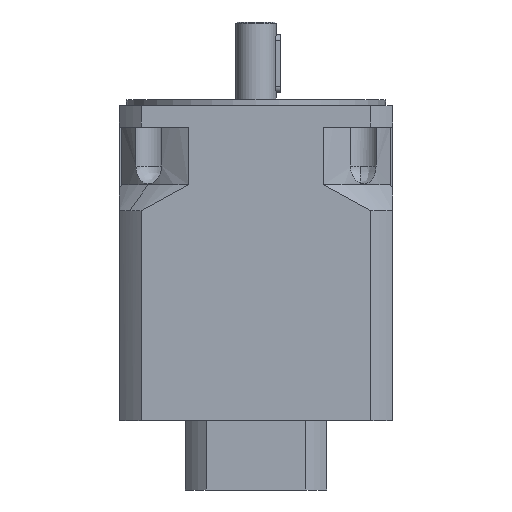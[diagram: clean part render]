
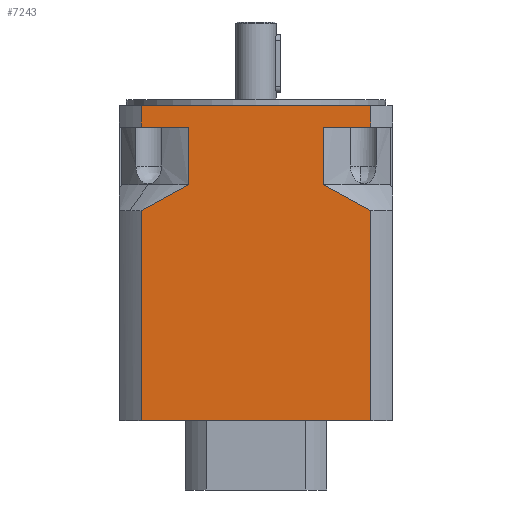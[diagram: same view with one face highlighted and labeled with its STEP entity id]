
A CAD part, front view. The second image highlights one B-rep face of the part: STEP entity #7243.
In plain terms, the highlighted planar face has unit normal (0, -1, 0).
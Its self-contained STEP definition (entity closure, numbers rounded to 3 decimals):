
#4755=CARTESIAN_POINT('',(-79.693,-95.0,267.));
#4756=VERTEX_POINT('',#4755);
#4757=CARTESIAN_POINT('',(79.693,-95.,267.));
#4758=VERTEX_POINT('',#4757);
#4759=CARTESIAN_POINT('',(-79.693,-95.0,267.));
#4760=DIRECTION('',(1.0,0.0,0.0));
#4761=VECTOR('',#4760,159.386);
#4762=LINE('',#4759,#4761);
#4763=EDGE_CURVE('',#4756,#4758,#4762,.T.);
#4915=CARTESIAN_POINT('',(79.693,-95.,252.));
#4916=VERTEX_POINT('',#4915);
#4917=CARTESIAN_POINT('',(79.693,-95.,267.));
#4918=DIRECTION('',(0.0,0.0,-1.0));
#4919=VECTOR('',#4918,15.);
#4920=LINE('',#4917,#4919);
#4921=EDGE_CURVE('',#4758,#4916,#4920,.T.);
#4947=CARTESIAN_POINT('',(-79.693,-95.0,252.));
#4948=VERTEX_POINT('',#4947);
#4949=CARTESIAN_POINT('',(-79.693,-95.0,252.));
#4950=DIRECTION('',(0.0,0.0,1.0));
#4951=VECTOR('',#4950,15.);
#4952=LINE('',#4949,#4951);
#4953=EDGE_CURVE('',#4948,#4756,#4952,.T.);
#5107=CARTESIAN_POINT('',(47.021,-95.0,252.));
#5108=VERTEX_POINT('',#5107);
#5109=CARTESIAN_POINT('',(79.693,-95.,252.));
#5110=DIRECTION('',(-1.0,0.0,0.0));
#5111=VECTOR('',#5110,32.672);
#5112=LINE('',#5109,#5111);
#5113=EDGE_CURVE('',#4916,#5108,#5112,.T.);
#5176=CARTESIAN_POINT('',(-47.021,-95.0,252.));
#5177=VERTEX_POINT('',#5176);
#5178=CARTESIAN_POINT('',(-47.021,-95.0,252.));
#5179=DIRECTION('',(-1.0,0.0,0.0));
#5180=VECTOR('',#5179,32.672);
#5181=LINE('',#5178,#5180);
#5182=EDGE_CURVE('',#5177,#4948,#5181,.T.);
#5639=CARTESIAN_POINT('',(47.021,-95.0,212.));
#5640=VERTEX_POINT('',#5639);
#5648=CARTESIAN_POINT('',(79.693,-95.0,194.));
#5649=VERTEX_POINT('',#5648);
#5650=CARTESIAN_POINT('',(79.693,-95.0,194.));
#5651=CARTESIAN_POINT('',(62.079,-95.0,205.321));
#5652=CARTESIAN_POINT('',(47.021,-95.0,212.));
#5660=(BOUNDED_CURVE()B_SPLINE_CURVE(2,(#5650,#5651,#5652),.UNSPECIFIED.,.F.,.U.)B_SPLINE_CURVE_WITH_KNOTS((3,3),(0.324,4.1),.UNSPECIFIED.)CURVE()GEOMETRIC_REPRESENTATION_ITEM()RATIONAL_B_SPLINE_CURVE((1.002,1.011,1.0))REPRESENTATION_ITEM(''));
#5661=EDGE_CURVE('',#5649,#5640,#5660,.T.);
#5821=CARTESIAN_POINT('',(47.021,-95.0,212.));
#5822=DIRECTION('',(0.0,0.0,1.0));
#5823=VECTOR('',#5822,40.0);
#5824=LINE('',#5821,#5823);
#5825=EDGE_CURVE('',#5640,#5108,#5824,.T.);
#5874=CARTESIAN_POINT('',(-47.021,-95.0,212.));
#5875=VERTEX_POINT('',#5874);
#5883=CARTESIAN_POINT('',(-47.021,-95.0,252.));
#5884=DIRECTION('',(0.0,0.0,-1.0));
#5885=VECTOR('',#5884,40.0);
#5886=LINE('',#5883,#5885);
#5887=EDGE_CURVE('',#5177,#5875,#5886,.T.);
#5922=CARTESIAN_POINT('',(-79.693,-95.,194.0));
#5923=VERTEX_POINT('',#5922);
#5931=CARTESIAN_POINT('',(-47.021,-95.,212.));
#5932=CARTESIAN_POINT('',(-62.079,-95.,205.321));
#5933=CARTESIAN_POINT('',(-79.693,-95.,194.0));
#5941=(BOUNDED_CURVE()B_SPLINE_CURVE(2,(#5931,#5932,#5933),.UNSPECIFIED.,.F.,.U.)B_SPLINE_CURVE_WITH_KNOTS((3,3),(0.0,3.776),.UNSPECIFIED.)CURVE()GEOMETRIC_REPRESENTATION_ITEM()RATIONAL_B_SPLINE_CURVE((1.0,1.011,1.002))REPRESENTATION_ITEM(''));
#5942=EDGE_CURVE('',#5875,#5923,#5941,.T.);
#6113=CARTESIAN_POINT('',(79.693,-95.0,48.));
#6114=VERTEX_POINT('',#6113);
#6115=CARTESIAN_POINT('',(-79.693,-95.,48.));
#6116=VERTEX_POINT('',#6115);
#6117=CARTESIAN_POINT('',(79.693,-95.0,48.));
#6118=DIRECTION('',(-1.0,0.0,0.0));
#6119=VECTOR('',#6118,159.386);
#6120=LINE('',#6117,#6119);
#6121=EDGE_CURVE('',#6114,#6116,#6120,.T.);
#7214=CARTESIAN_POINT('',(-79.693,-95.0,267.));
#7215=DIRECTION('',(0.0,-1.0,0.0));
#7216=DIRECTION('',(0.0,0.0,-1.0));
#7217=AXIS2_PLACEMENT_3D('',#7214,#7215,#7216);
#7218=PLANE('',#7217);
#7219=ORIENTED_EDGE('',*,*,#5887,.T.);
#7220=ORIENTED_EDGE('',*,*,#5942,.T.);
#7221=CARTESIAN_POINT('',(-79.693,-95.,194.0));
#7222=DIRECTION('',(0.0,0.0,-1.0));
#7223=VECTOR('',#7222,146.0);
#7224=LINE('',#7221,#7223);
#7225=EDGE_CURVE('',#5923,#6116,#7224,.T.);
#7226=ORIENTED_EDGE('',*,*,#7225,.T.);
#7227=ORIENTED_EDGE('',*,*,#6121,.F.);
#7228=CARTESIAN_POINT('',(79.693,-95.0,194.));
#7229=DIRECTION('',(0.0,0.0,-1.0));
#7230=VECTOR('',#7229,146.);
#7231=LINE('',#7228,#7230);
#7232=EDGE_CURVE('',#5649,#6114,#7231,.T.);
#7233=ORIENTED_EDGE('',*,*,#7232,.F.);
#7234=ORIENTED_EDGE('',*,*,#5661,.T.);
#7235=ORIENTED_EDGE('',*,*,#5825,.T.);
#7236=ORIENTED_EDGE('',*,*,#5113,.F.);
#7237=ORIENTED_EDGE('',*,*,#4921,.F.);
#7238=ORIENTED_EDGE('',*,*,#4763,.F.);
#7239=ORIENTED_EDGE('',*,*,#4953,.F.);
#7240=ORIENTED_EDGE('',*,*,#5182,.F.);
#7241=EDGE_LOOP('',(#7219,#7220,#7226,#7227,#7233,#7234,#7235,#7236,#7237,#7238,#7239,#7240));
#7242=FACE_OUTER_BOUND('',#7241,.T.);
#7243=ADVANCED_FACE('',(#7242),#7218,.T.);
